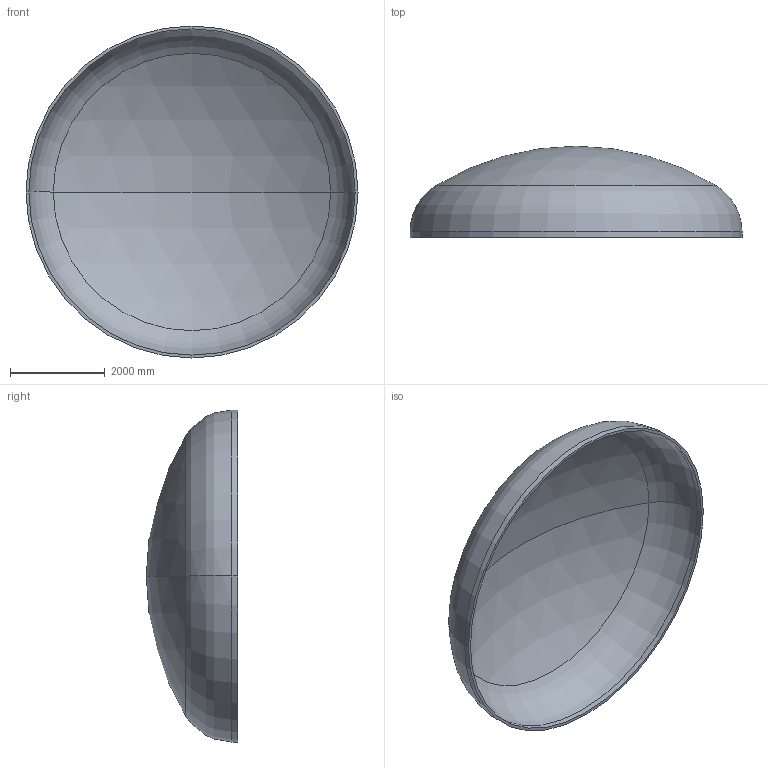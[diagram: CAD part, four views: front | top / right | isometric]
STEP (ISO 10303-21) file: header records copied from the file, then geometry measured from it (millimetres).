
FILE_DESCRIPTION (( 'STEP AP203' ), '1' );
FILE_NAME ('DIN 28013 Korbbogenform_-_Boden DIN 28013 - 7000 x 120 - I - s=60.step', '2016-07-04T10:48:26', ( '' ), ( '' ), 'SwSTEP 2.0', 'SolidWorks 2013', '' );
FILE_SCHEMA (( 'CONFIG_CONTROL_DESIGN' ));
Length unit declared in the file: millimetre
Products named in the file (1): DIN 28013 Korbbogenform_-_Boden DIN 28013 - 7000 x 120 - I - s=60
Bounding box: 7000 x 1925.03 x 7000 mm (x, y, z)
Volume: 3320123443 mm3; surface area: 111986437.7 mm2
Topology: 1 solids, 1 shells, 13 faces, 24 edges, 14 vertices
Faces by surface type: torus 4, cylinder 4, sphere 4, plane 1
Entity records: 407 total; most frequent: DIRECTION 72, CARTESIAN_POINT 52, ORIENTED_EDGE 48, AXIS2_PLACEMENT_3D 34, EDGE_CURVE 24, CIRCLE 20, VERTEX_POINT 14, EDGE_LOOP 14
